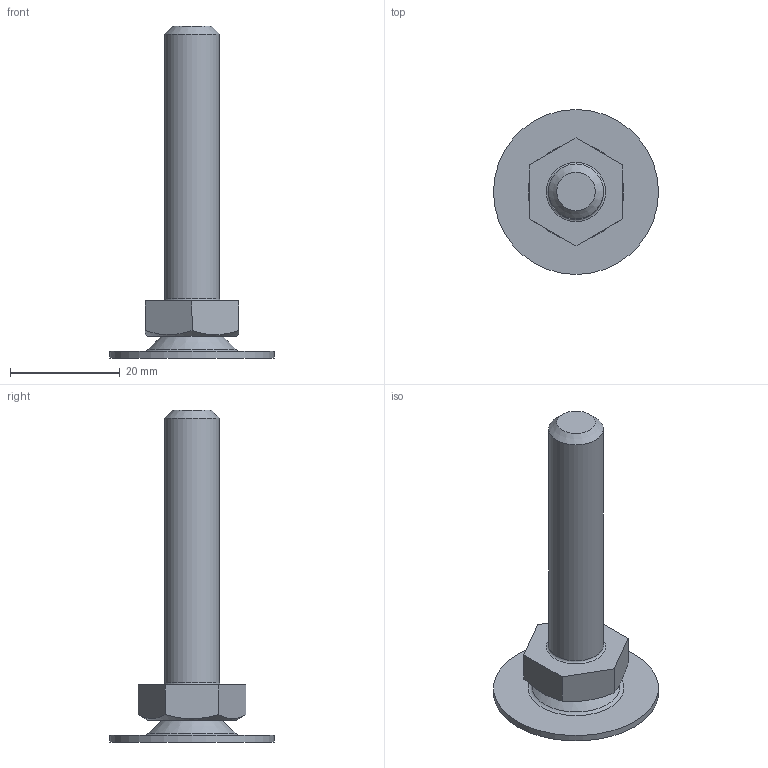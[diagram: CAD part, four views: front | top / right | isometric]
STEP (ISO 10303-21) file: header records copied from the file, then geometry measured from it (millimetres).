
FILE_DESCRIPTION(('STEP AP203'), '1');
FILE_NAME('A00050.1031016', '', ('UNSPECIFIED'), ('UNSPECIFIED'), 'C3D Converter', 'C3D Toolkit', '');
FILE_SCHEMA(('CONFIG_CONTROL_DESIGN'));
Length unit declared in the file: millimetre
Products named in the file (4): A00050.1031050; A00050.1030
Assembly tree (3 placements, depth 2):
  A00050.1031050
    A00050.1030
    (unnamed)
    (unnamed)
Bounding box: 30 x 30 x 60.38 mm (x, y, z)
Volume: 6383.2 mm3; surface area: 4441 mm2
Topology: 3 solids, 3 shells, 58 faces, 130 edges, 82 vertices
Faces by surface type: plane 28, torus 8, bspline 8, cone 7, cylinder 6, sphere 1
Full cylindrical faces by diameter (mm): 3.3 x1, 4 x1, 4.5 x1, 8 x1, 10 x1, 30 x1
Entity records: 2171 total; most frequent: CARTESIAN_POINT 784, DIRECTION 242, ORIENTED_EDGE 214, EDGE_CURVE 107, AXIS2_PLACEMENT_3D 95, EDGE_LOOP 86, VERTEX_POINT 81, ADVANCED_FACE 58
